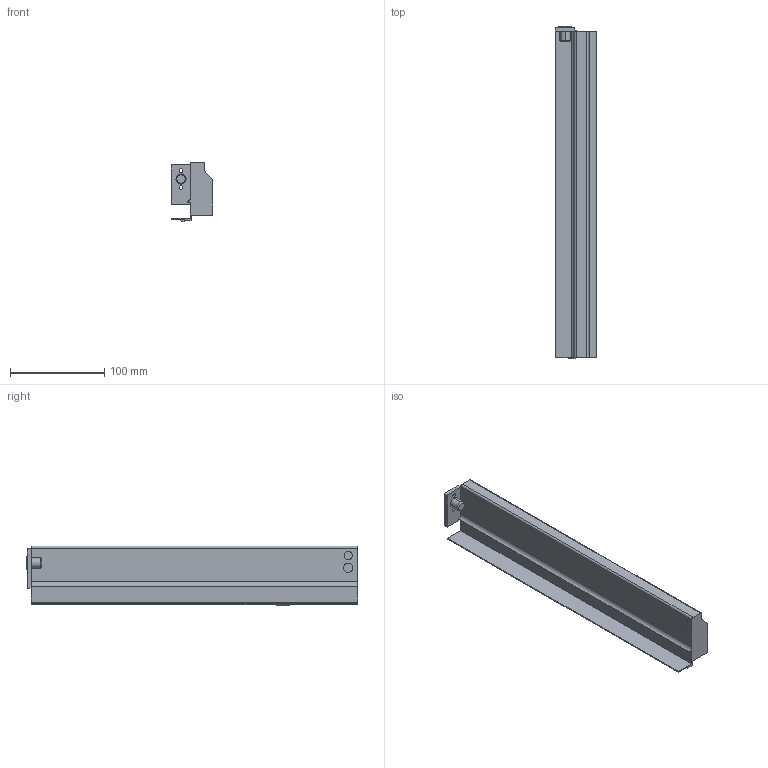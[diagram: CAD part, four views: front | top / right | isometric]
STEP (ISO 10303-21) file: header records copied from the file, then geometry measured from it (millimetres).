
FILE_DESCRIPTION (( 'STEP AP214' ), '1' );
FILE_NAME ('IMOS_NOVA-Pro_Dekor-H63_CL_NL350_RE.step', '2010-09-28T15:25:54', ( 'grass' ), ( '' ), 'SwSTEP 2.0', 'SolidWorks 2010', '' );
FILE_SCHEMA (( 'AUTOMOTIVE_DESIGN' ));
Length unit declared in the file: millimetre
Products named in the file (1): IMOS_NOVA-Pro_Dekor-H63_CL_NL350_RE
Bounding box: 44.3 x 352.7 x 63.49 mm (x, y, z)
Volume: 172992.8 mm3; surface area: 102345.5 mm2
Topology: 1 solids, 1 shells, 69 faces, 186 edges, 121 vertices
Faces by surface type: plane 41, cylinder 23, cone 4, bspline 1
Entity records: 2206 total; most frequent: CARTESIAN_POINT 390, DIRECTION 375, ORIENTED_EDGE 372, EDGE_CURVE 186, VECTOR 131, LINE 131, AXIS2_PLACEMENT_3D 122, VERTEX_POINT 121
